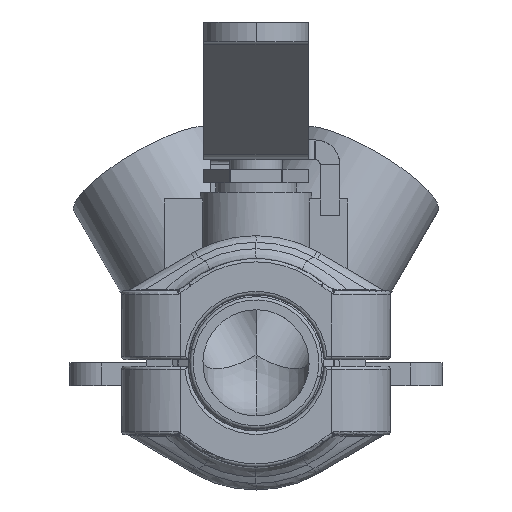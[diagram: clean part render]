
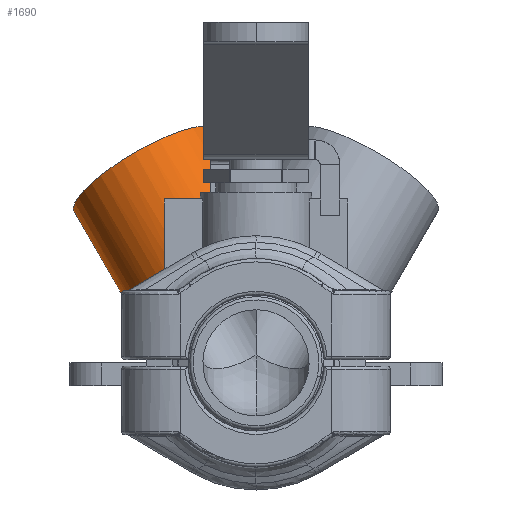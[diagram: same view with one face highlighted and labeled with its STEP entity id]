
A CAD part, left-side view. The second image highlights one B-rep face of the part: STEP entity #1690.
In plain terms, the highlighted cylindrical face has radius 12.5 mm (diameter 25 mm), a partial arc.
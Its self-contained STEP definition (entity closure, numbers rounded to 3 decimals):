
#792=B_SPLINE_CURVE_WITH_KNOTS('',3,(#17739,#17740,#17741,#17742),.UNSPECIFIED.,
 .F.,.F.,(4,4),(0.,1.),.UNSPECIFIED.);
#793=B_SPLINE_CURVE_WITH_KNOTS('',3,(#17744,#17745,#17746,#17747,#17748,
#17749,#17750,#17751,#17752,#17753,#17754,#17755,#17756,#17757,#17758,#17759,
#17760,#17761,#17762,#17763,#17764,#17765,#17766,#17767,#17768,#17769,#17770,
#17771,#17772,#17773,#17774,#17775,#17776,#17777,#17778,#17779,#17780,#17781),
 .UNSPECIFIED.,.F.,.F.,(4,2,2,2,2,2,2,2,2,2,2,2,2,2,2,2,2,2,4),(0.,0.063,
0.094,0.109,0.125,0.188,0.219,0.234,
0.25,0.313,0.375,0.438,0.469,0.5,
0.75,0.813,0.844,0.875,1.),.UNSPECIFIED.);
#794=B_SPLINE_CURVE_WITH_KNOTS('',3,(#17783,#17784,#17785,#17786,#17787,
#17788,#17789,#17790,#17791,#17792,#17793,#17794,#17795,#17796),.UNSPECIFIED.,
 .F.,.F.,(4,2,2,2,2,2,4),(0.,0.125,0.188,0.25,0.375,0.5,1.),.UNSPECIFIED.);
#1341=CYLINDRICAL_SURFACE('',#12615,12.5);
#1690=ADVANCED_FACE('',(#2511),#1341,.T.);
#2511=FACE_OUTER_BOUND('',#3256,.T.);
#3256=EDGE_LOOP('',(#5947,#5948,#5949,#5950,#5951,#5952));
#4090=LINE('',#17737,#4673);
#4091=LINE('',#17798,#4674);
#4673=VECTOR('',#14468,1.);
#4674=VECTOR('',#14469,1.);
#5947=ORIENTED_EDGE('',*,*,#10240,.F.);
#5948=ORIENTED_EDGE('',*,*,#10241,.T.);
#5949=ORIENTED_EDGE('',*,*,#10242,.T.);
#5950=ORIENTED_EDGE('',*,*,#10243,.T.);
#5951=ORIENTED_EDGE('',*,*,#10244,.T.);
#5952=ORIENTED_EDGE('',*,*,#10245,.F.);
#8976=VERTEX_POINT('',#17731);
#8977=VERTEX_POINT('',#17733);
#8978=VERTEX_POINT('',#17738);
#8979=VERTEX_POINT('',#17743);
#8980=VERTEX_POINT('',#17782);
#8981=VERTEX_POINT('',#17797);
#10240=EDGE_CURVE('',#8977,#8976,#11770,.T.);
#10241=EDGE_CURVE('',#8977,#8978,#4090,.T.);
#10242=EDGE_CURVE('',#8978,#8979,#792,.T.);
#10243=EDGE_CURVE('',#8979,#8980,#793,.T.);
#10244=EDGE_CURVE('',#8980,#8981,#794,.T.);
#10245=EDGE_CURVE('',#8976,#8981,#4091,.T.);
#11770=CIRCLE('',#12614,12.5);
#12614=AXIS2_PLACEMENT_3D('',#17736,#14466,#14467);
#12615=AXIS2_PLACEMENT_3D('',#17799,#14470,#14471);
#14466=DIRECTION('',(0.254,0.484,0.838));
#14467=DIRECTION('',(0.,-0.866,0.5));
#14468=DIRECTION('',(-0.254,-0.484,-0.838));
#14469=DIRECTION('',(-0.254,-0.484,-0.838));
#14470=DIRECTION('',(-0.254,-0.484,-0.838));
#14471=DIRECTION('',(0.,-0.866,0.5));
#17731=CARTESIAN_POINT('',(5.74,6.105,39.914));
#17733=CARTESIAN_POINT('',(5.74,27.755,27.414));
#17736=CARTESIAN_POINT('',(5.74,16.93,33.664));
#17737=CARTESIAN_POINT('',(-2.124,12.795,1.502));
#17738=CARTESIAN_POINT('',(-1.101,14.742,4.874));
#17739=CARTESIAN_POINT('',(-1.101,14.742,4.874));
#17740=CARTESIAN_POINT('',(-1.46,15.124,5.535));
#17741=CARTESIAN_POINT('',(-1.821,15.468,6.203));
#17742=CARTESIAN_POINT('',(-2.179,15.777,6.876));
#17743=CARTESIAN_POINT('',(-2.179,15.777,6.876));
#17744=CARTESIAN_POINT('',(-2.179,15.777,6.876));
#17745=CARTESIAN_POINT('',(-2.674,15.764,6.984));
#17746=CARTESIAN_POINT('',(-3.18,15.749,7.157));
#17747=CARTESIAN_POINT('',(-3.946,15.711,7.521));
#17748=CARTESIAN_POINT('',(-4.203,15.695,7.659));
#17749=CARTESIAN_POINT('',(-4.588,15.666,7.893));
#17750=CARTESIAN_POINT('',(-4.716,15.655,7.976));
#17751=CARTESIAN_POINT('',(-4.973,15.631,8.15));
#17752=CARTESIAN_POINT('',(-5.146,15.613,8.275));
#17753=CARTESIAN_POINT('',(-5.562,15.566,8.587));
#17754=CARTESIAN_POINT('',(-5.935,15.516,8.9));
#17755=CARTESIAN_POINT('',(-6.537,15.398,9.474));
#17756=CARTESIAN_POINT('',(-6.744,15.351,9.683));
#17757=CARTESIAN_POINT('',(-7.063,15.267,10.024));
#17758=CARTESIAN_POINT('',(-7.17,15.236,10.142));
#17759=CARTESIAN_POINT('',(-7.387,15.17,10.387));
#17760=CARTESIAN_POINT('',(-7.518,15.126,10.541));
#17761=CARTESIAN_POINT('',(-7.957,14.969,11.07));
#17762=CARTESIAN_POINT('',(-8.303,14.812,11.523));
#17763=CARTESIAN_POINT('',(-8.892,14.484,12.37));
#17764=CARTESIAN_POINT('',(-9.159,14.306,12.773));
#17765=CARTESIAN_POINT('',(-9.753,13.803,13.765));
#17766=CARTESIAN_POINT('',(-10.008,13.53,14.232));
#17767=CARTESIAN_POINT('',(-10.335,13.104,14.885));
#17768=CARTESIAN_POINT('',(-10.436,12.96,15.095));
#17769=CARTESIAN_POINT('',(-10.619,12.666,15.497));
#17770=CARTESIAN_POINT('',(-10.688,12.547,15.654));
#17771=CARTESIAN_POINT('',(-11.509,10.94,17.633));
#17772=CARTESIAN_POINT('',(-11.728,9.07,19.02));
#17773=CARTESIAN_POINT('',(-11.454,6.612,20.076));
#17774=CARTESIAN_POINT('',(-11.372,6.1,20.261));
#17775=CARTESIAN_POINT('',(-11.202,5.309,20.495));
#17776=CARTESIAN_POINT('',(-11.138,5.042,20.566));
#17777=CARTESIAN_POINT('',(-10.994,4.5,20.692));
#17778=CARTESIAN_POINT('',(-10.9,4.183,20.754));
#17779=CARTESIAN_POINT('',(-10.528,3.008,20.954));
#17780=CARTESIAN_POINT('',(-10.113,1.957,21.033));
#17781=CARTESIAN_POINT('',(-9.532,0.849,20.983));
#17782=CARTESIAN_POINT('',(-9.532,0.849,20.983));
#17783=CARTESIAN_POINT('',(-9.532,0.849,20.983));
#17784=CARTESIAN_POINT('',(-9.008,0.91,21.879));
#17785=CARTESIAN_POINT('',(-8.483,0.967,22.712));
#17786=CARTESIAN_POINT('',(-7.7,1.048,23.87));
#17787=CARTESIAN_POINT('',(-7.439,1.074,24.24));
#17788=CARTESIAN_POINT('',(-6.922,1.124,24.951));
#17789=CARTESIAN_POINT('',(-6.696,1.145,25.252));
#17790=CARTESIAN_POINT('',(-5.838,1.224,26.348));
#17791=CARTESIAN_POINT('',(-5.267,1.272,27.014));
#17792=CARTESIAN_POINT('',(-4.138,1.361,28.222));
#17793=CARTESIAN_POINT('',(-3.613,1.4,28.735));
#17794=CARTESIAN_POINT('',(-0.71,1.598,31.275));
#17795=CARTESIAN_POINT('',(1.488,1.694,32.274));
#17796=CARTESIAN_POINT('',(3.441,1.732,32.34));
#17797=CARTESIAN_POINT('',(3.441,1.732,32.34));
#17798=CARTESIAN_POINT('',(-2.124,-8.856,14.002));
#17799=CARTESIAN_POINT('',(-2.124,1.97,7.752));
